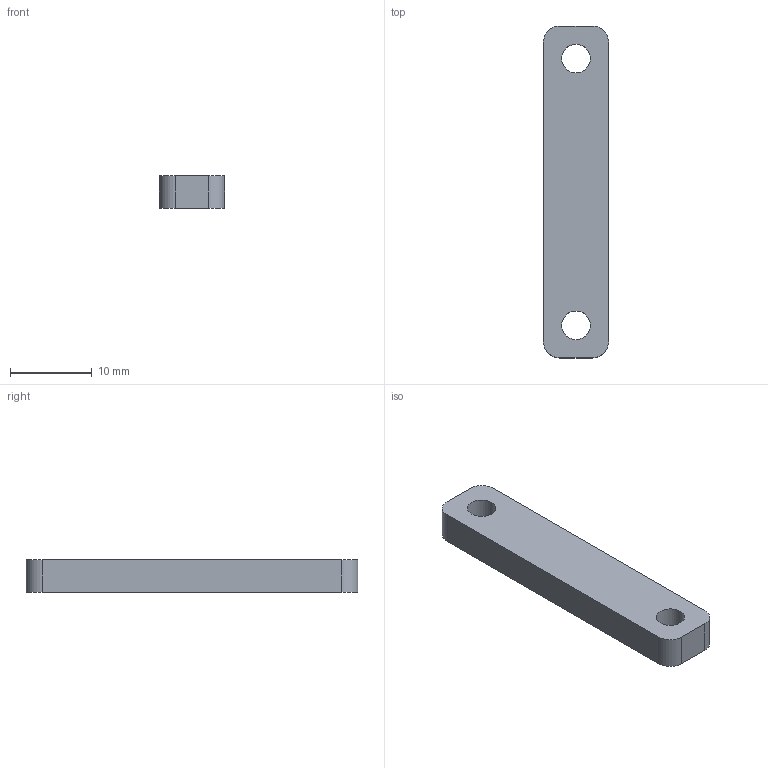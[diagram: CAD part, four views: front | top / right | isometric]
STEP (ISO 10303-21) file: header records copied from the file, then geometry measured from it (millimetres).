
FILE_DESCRIPTION(('Open CASCADE Model'),'2;1');
FILE_NAME('Open CASCADE Shape Model','2026-10-14T15:05:49',('Author'),( 'Open CASCADE'),'Open CASCADE STEP processor 7.8','Open CASCADE 7.8' ,'Unknown');
FILE_SCHEMA(('AUTOMOTIVE_DESIGN { 1 0 10303 214 1 1 1 1 }'));
Length unit declared in the file: millimetre
Products named in the file (1): Open CASCADE STEP translator 7.8 14
Bounding box: 8 x 40.72 x 4 mm (x, y, z)
Volume: 1212.3 mm3; surface area: 1070.2 mm2
Topology: 1 solids, 1 shells, 12 faces, 30 edges, 20 vertices
Faces by surface type: plane 6, cylinder 6
Full cylindrical faces by diameter (mm): 3.5 x2
Entity records: 792 total; most frequent: CARTESIAN_POINT 159, DIRECTION 122, LINE 66, VECTOR 66, ORIENTED_EDGE 60, PCURVE 60, DEFINITIONAL_REPRESENTATION 60, EDGE_CURVE 30
